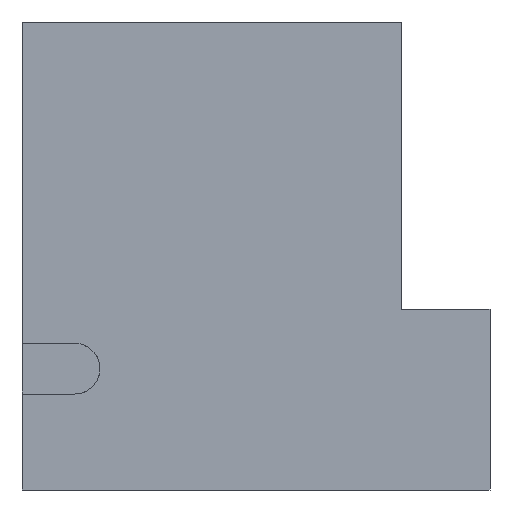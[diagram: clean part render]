
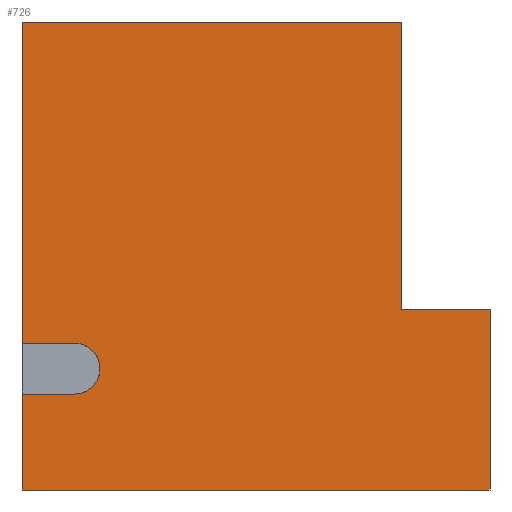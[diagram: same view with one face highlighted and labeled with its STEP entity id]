
A CAD part, left-side view. The second image highlights one B-rep face of the part: STEP entity #726.
In plain terms, the highlighted planar face has unit normal (-1, 0, 0).
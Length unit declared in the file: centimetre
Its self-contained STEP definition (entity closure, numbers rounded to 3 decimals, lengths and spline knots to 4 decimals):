
#7 = EDGE_CURVE ( 'NONE', #1687, #1507, #787, .T. ) ;
#37 = VECTOR ( 'NONE', #1760, 100. ) ;
#41 = VECTOR ( 'NONE', #591, 100. ) ;
#42 = ORIENTED_EDGE ( 'NONE', *, *, #1603, .F. ) ;
#53 = EDGE_LOOP ( 'NONE', ( #1671, #1538, #198, #915, #1005, #1110, #940, #42, #1209, #1448 ) ) ;
#59 = DIRECTION ( 'NONE',  ( 0., -1., 0. ) ) ;
#158 = LINE ( 'NONE', #1753, #1487 ) ;
#161 = LINE ( 'NONE', #563, #402 ) ;
#168 = DIRECTION ( 'NONE',  ( 0., -1., 0. ) ) ;
#186 = CARTESIAN_POINT ( 'NONE',  ( 0., 1000., 1000. ) ) ;
#190 = CARTESIAN_POINT ( 'NONE',  ( 0., 1000., 0. ) ) ;
#198 = ORIENTED_EDGE ( 'NONE', *, *, #541, .T. ) ;
#252 = CARTESIAN_POINT ( 'NONE',  ( 0., 1000., 1000. ) ) ;
#284 = DIRECTION ( 'NONE',  ( 0., 0., 1. ) ) ;
#402 = VECTOR ( 'NONE', #961, 100. ) ;
#409 = CARTESIAN_POINT ( 'NONE',  ( 0., 188.1804, 1000. ) ) ;
#431 = CARTESIAN_POINT ( 'NONE',  ( 0., 1000., 313.5644 ) ) ;
#450 = EDGE_CURVE ( 'NONE', #872, #1507, #1587, .T. ) ;
#497 = CARTESIAN_POINT ( 'NONE',  ( 0., 1000., 1000. ) ) ;
#528 = DIRECTION ( 'NONE',  ( 1., 0., 0. ) ) ;
#530 = DIRECTION ( 'NONE',  ( 0., 0., -1. ) ) ;
#541 = EDGE_CURVE ( 'NONE', #1315, #896, #158, .T. ) ;
#563 = CARTESIAN_POINT ( 'NONE',  ( 0., 887.641, 205.0292 ) ) ;
#567 = CARTESIAN_POINT ( 'NONE',  ( 0., 188.1804, 386.6545 ) ) ;
#591 = DIRECTION ( 'NONE',  ( 0., -1., 0. ) ) ;
#641 = CARTESIAN_POINT ( 'NONE',  ( 0., 887.641, 205.0292 ) ) ;
#646 = CARTESIAN_POINT ( 'NONE',  ( 0., 0., 386.6545 ) ) ;
#652 = VERTEX_POINT ( 'NONE', #409 ) ;
#658 = VECTOR ( 'NONE', #284, 100. ) ;
#675 = EDGE_CURVE ( 'NONE', #1244, #1724, #1210, .T. ) ;
#706 = LINE ( 'NONE', #1378, #1058 ) ;
#720 = CARTESIAN_POINT ( 'NONE',  ( 0., 1000., 0. ) ) ;
#721 = VECTOR ( 'NONE', #168, 100. ) ;
#726 = ADVANCED_FACE ( 'NONE', ( #1613 ), #932, .F. ) ;
#750 = DIRECTION ( 'NONE',  ( 0., 0., -1. ) ) ;
#756 = LINE ( 'NONE', #186, #41 ) ;
#772 = CARTESIAN_POINT ( 'NONE',  ( 0., 0., 0. ) ) ;
#787 = LINE ( 'NONE', #813, #887 ) ;
#792 = EDGE_CURVE ( 'NONE', #1673, #1244, #706, .T. ) ;
#800 = CARTESIAN_POINT ( 'NONE',  ( 0., 1000., 205.0292 ) ) ;
#813 = CARTESIAN_POINT ( 'NONE',  ( 0., 1000., 313.5644 ) ) ;
#847 = EDGE_CURVE ( 'NONE', #1673, #652, #1260, .T. ) ;
#872 = VERTEX_POINT ( 'NONE', #977 ) ;
#882 = CARTESIAN_POINT ( 'NONE',  ( 0., 887.641, 313.5644 ) ) ;
#887 = VECTOR ( 'NONE', #1356, 100. ) ;
#896 = VERTEX_POINT ( 'NONE', #190 ) ;
#915 = ORIENTED_EDGE ( 'NONE', *, *, #1440, .T. ) ;
#932 = PLANE ( 'NONE',  #1148 ) ;
#940 = ORIENTED_EDGE ( 'NONE', *, *, #847, .T. ) ;
#961 = DIRECTION ( 'NONE',  ( 0., -1., 0. ) ) ;
#969 = DIRECTION ( 'NONE',  ( 0., 0., -1. ) ) ;
#977 = CARTESIAN_POINT ( 'NONE',  ( 0., 1000., 1000. ) ) ;
#986 = VERTEX_POINT ( 'NONE', #641 ) ;
#1005 = ORIENTED_EDGE ( 'NONE', *, *, #675, .F. ) ;
#1058 = VECTOR ( 'NONE', #59, 100. ) ;
#1072 = DIRECTION ( 'NONE',  ( 0., 0., -1. ) ) ;
#1107 = EDGE_CURVE ( 'NONE', #986, #1687, #1717, .T. ) ;
#1110 = ORIENTED_EDGE ( 'NONE', *, *, #792, .F. ) ;
#1133 = LINE ( 'NONE', #720, #721 ) ;
#1148 = AXIS2_PLACEMENT_3D ( 'NONE', #252, #528, #1072 ) ;
#1209 = ORIENTED_EDGE ( 'NONE', *, *, #450, .T. ) ;
#1210 = LINE ( 'NONE', #1334, #37 ) ;
#1234 = AXIS2_PLACEMENT_3D ( 'NONE', #1452, #1723, #750 ) ;
#1244 = VERTEX_POINT ( 'NONE', #646 ) ;
#1260 = LINE ( 'NONE', #567, #658 ) ;
#1315 = VERTEX_POINT ( 'NONE', #800 ) ;
#1317 = VECTOR ( 'NONE', #969, 100. ) ;
#1334 = CARTESIAN_POINT ( 'NONE',  ( 0., 0., 1000. ) ) ;
#1356 = DIRECTION ( 'NONE',  ( 0., 1., 0. ) ) ;
#1378 = CARTESIAN_POINT ( 'NONE',  ( 0., 188.1804, 386.6545 ) ) ;
#1401 = EDGE_CURVE ( 'NONE', #1315, #986, #161, .T. ) ;
#1409 = CARTESIAN_POINT ( 'NONE',  ( 0., 188.1804, 386.6545 ) ) ;
#1440 = EDGE_CURVE ( 'NONE', #896, #1724, #1133, .T. ) ;
#1448 = ORIENTED_EDGE ( 'NONE', *, *, #7, .F. ) ;
#1452 = CARTESIAN_POINT ( 'NONE',  ( 0., 887.641, 259.2968 ) ) ;
#1487 = VECTOR ( 'NONE', #530, 100. ) ;
#1507 = VERTEX_POINT ( 'NONE', #431 ) ;
#1538 = ORIENTED_EDGE ( 'NONE', *, *, #1401, .F. ) ;
#1587 = LINE ( 'NONE', #497, #1317 ) ;
#1603 = EDGE_CURVE ( 'NONE', #872, #652, #756, .T. ) ;
#1613 = FACE_OUTER_BOUND ( 'NONE', #53, .T. ) ;
#1671 = ORIENTED_EDGE ( 'NONE', *, *, #1107, .F. ) ;
#1673 = VERTEX_POINT ( 'NONE', #1409 ) ;
#1687 = VERTEX_POINT ( 'NONE', #882 ) ;
#1717 = CIRCLE ( 'NONE', #1234, 54.2676 ) ;
#1723 = DIRECTION ( 'NONE',  ( -1., 0., 0. ) ) ;
#1724 = VERTEX_POINT ( 'NONE', #772 ) ;
#1753 = CARTESIAN_POINT ( 'NONE',  ( 0., 1000., 1000. ) ) ;
#1760 = DIRECTION ( 'NONE',  ( 0., 0., -1. ) ) ;
